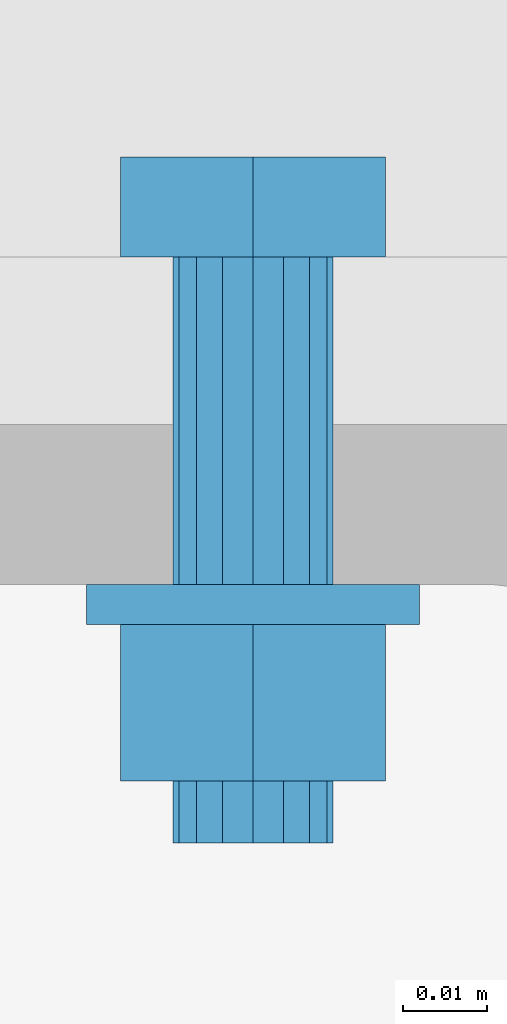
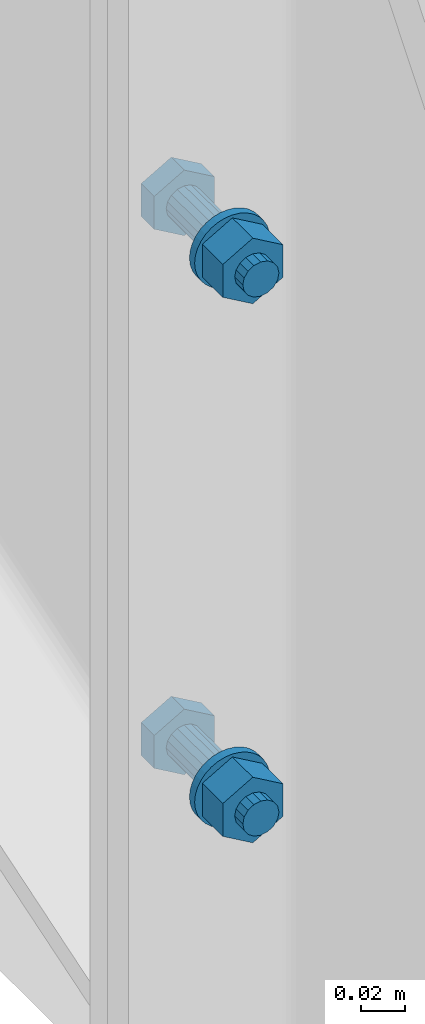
# Not in any storey, part 10 of 51: 2 mechanical fasteners.
"""IFC4 model written with IfcOpenShell, lengths in feet."""

from ifc_helpers import new_model, entity, si_unit, converted_unit, direction, origin, origin_with_axes, place, context, project, spatial, faceted_brep, element, save


model = new_model("IFC4")

# Units and contexts
model_context = context("Model", 3, precision=0.0001, world=origin(), true_north=direction((6.123233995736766e-17, 1.0)))
ifc_project = project(units=[converted_unit("LENGTHUNIT", "FOOT", entity("IfcLengthMeasure", 0.3048), si_unit("LENGTHUNIT", "METRE"), dimensions=[1, 0, 0, 0, 0, 0, 0]), converted_unit("AREAUNIT", "SQUARE INCH", entity("IfcAreaMeasure", 0.0006451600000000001), si_unit("AREAUNIT", "SQUARE_METRE"), dimensions=[2, 0, 0, 0, 0, 0, 0]), converted_unit("PLANEANGLEUNIT", "DEGREE", entity("IfcPlaneAngleMeasure", 0.017453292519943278), si_unit("PLANEANGLEUNIT", "RADIAN"), dimensions=[0, 0, 0, 0, 0, 0, 0]), si_unit("VOLUMEUNIT", "CUBIC_METRE")], contexts=[model_context])

# Site
site_placement = place(None, origin())
site = spatial("IfcSite", under=ifc_project, at=site_placement, Name="Default", CompositionType="ELEMENT")

# Mechanical fasteners
mechanical_fastener_1_placement = place(site_placement, origin_with_axes())
element("IfcMechanicalFastener", 1, at=mechanical_fastener_1_placement, inside=site, ObjectType="Bolt#5", NominalDiameter=0.0625, NominalLength=0.22916666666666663, context=model_context, shape_type="Brep", body=[
    faceted_brep([(11.05603211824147, 6.28730066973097, 17.178057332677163), (11.05603211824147, 6.326363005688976, 17.178057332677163), (11.1079034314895, 6.326363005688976, 17.148109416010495), (11.1079034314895, 6.28730066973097, 17.148109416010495), (11.159774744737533, 6.326363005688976, 17.178057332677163), (11.159774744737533, 6.28730066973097, 17.178057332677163), (11.159774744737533, 6.326363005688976, 17.2379531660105), (11.159774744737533, 6.28730066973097, 17.2379531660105), (11.1079034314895, 6.326363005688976, 17.267901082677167), (11.1079034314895, 6.28730066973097, 17.267901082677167), (11.05603211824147, 6.326363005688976, 17.2379531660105), (11.05603211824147, 6.28730066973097, 17.2379531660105)], [[[0, 1, 2, 3]], [[3, 2, 4, 5]], [[5, 4, 6, 7]], [[7, 6, 8, 9]], [[9, 8, 10, 11]], [[11, 10, 1, 0]], [[4, 2, 1, 10, 8, 6]], [[0, 3, 5, 7, 9, 11]]]),
    faceted_brep([(11.139153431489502, 6.28730066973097, 17.20800524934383), (11.139153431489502, 6.159183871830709, 17.20800524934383), (11.136774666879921, 6.159183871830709, 17.196046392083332), (11.136774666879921, 6.28730066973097, 17.196046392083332), (11.13000051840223, 6.159183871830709, 17.185908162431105), (11.13000051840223, 6.28730066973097, 17.185908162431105), (11.11986228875, 6.159183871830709, 17.17913401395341), (11.11986228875, 6.28730066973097, 17.17913401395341), (11.1079034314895, 6.159183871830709, 17.17675524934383), (11.1079034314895, 6.28730066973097, 17.17675524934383), (11.095944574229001, 6.159183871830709, 17.17913401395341), (11.095944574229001, 6.28730066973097, 17.17913401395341), (11.085806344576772, 6.159183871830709, 17.185908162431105), (11.085806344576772, 6.28730066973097, 17.185908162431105), (11.079032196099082, 6.159183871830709, 17.196046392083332), (11.079032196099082, 6.28730066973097, 17.196046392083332), (11.0766534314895, 6.159183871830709, 17.20800524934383), (11.0766534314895, 6.28730066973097, 17.20800524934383), (11.079032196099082, 6.159183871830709, 17.21996410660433), (11.079032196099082, 6.28730066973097, 17.21996410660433), (11.085806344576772, 6.159183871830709, 17.23010233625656), (11.085806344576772, 6.28730066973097, 17.23010233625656), (11.095944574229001, 6.159183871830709, 17.236876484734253), (11.095944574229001, 6.28730066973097, 17.236876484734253), (11.1079034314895, 6.159183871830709, 17.23925524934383), (11.1079034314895, 6.28730066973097, 17.23925524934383), (11.11986228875, 6.159183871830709, 17.236876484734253), (11.11986228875, 6.28730066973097, 17.236876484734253), (11.13000051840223, 6.159183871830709, 17.23010233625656), (11.13000051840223, 6.28730066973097, 17.23010233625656), (11.136774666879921, 6.159183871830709, 17.21996410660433), (11.136774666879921, 6.28730066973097, 17.21996410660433)], [[[0, 1, 2, 3]], [[3, 2, 4, 5]], [[5, 4, 6, 7]], [[7, 6, 8, 9]], [[9, 8, 10, 11]], [[11, 10, 12, 13]], [[13, 12, 14, 15]], [[15, 14, 16, 17]], [[17, 16, 18, 19]], [[19, 18, 20, 21]], [[21, 20, 22, 23]], [[23, 22, 24, 25]], [[25, 24, 26, 27]], [[27, 26, 28, 29]], [[29, 28, 30, 31]], [[31, 30, 1, 0]], [[0, 3, 5, 7, 9, 11, 13, 15, 17, 19, 21, 23, 25, 27, 29, 31]], [[1, 30, 28, 26, 24, 22, 20, 18, 16, 14, 12, 10, 8, 6, 4, 2]]]),
    faceted_brep([(11.173007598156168, 6.159183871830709, 17.20800524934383), (11.173007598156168, 6.143558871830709, 17.20800524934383), (11.17175663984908, 6.143558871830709, 17.195304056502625), (11.17175663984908, 6.159183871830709, 17.195304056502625), (11.168051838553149, 6.143558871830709, 17.183090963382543), (11.168051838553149, 6.159183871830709, 17.183090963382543), (11.162035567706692, 6.143558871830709, 17.171835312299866), (11.162035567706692, 6.159183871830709, 17.171835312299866), (11.15393902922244, 6.143558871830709, 17.161969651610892), (11.15393902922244, 6.159183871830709, 17.161969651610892), (11.144073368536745, 6.143558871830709, 17.15387311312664), (11.144073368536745, 6.159183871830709, 17.15387311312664), (11.132817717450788, 6.143558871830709, 17.147856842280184), (11.132817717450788, 6.159183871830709, 17.147856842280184), (11.120604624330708, 6.143558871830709, 17.144152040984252), (11.120604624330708, 6.159183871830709, 17.144152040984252), (11.1079034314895, 6.143558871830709, 17.142901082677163), (11.1079034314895, 6.159183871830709, 17.142901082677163), (11.095202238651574, 6.143558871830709, 17.144152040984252), (11.095202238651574, 6.159183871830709, 17.144152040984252), (11.082989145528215, 6.143558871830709, 17.147856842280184), (11.082989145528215, 6.159183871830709, 17.147856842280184), (11.071733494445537, 6.143558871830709, 17.15387311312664), (11.071733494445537, 6.159183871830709, 17.15387311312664), (11.061867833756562, 6.143558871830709, 17.161969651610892), (11.061867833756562, 6.159183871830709, 17.161969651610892), (11.053771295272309, 6.143558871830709, 17.171835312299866), (11.053771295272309, 6.159183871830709, 17.171835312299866), (11.047755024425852, 6.143558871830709, 17.183090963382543), (11.047755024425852, 6.159183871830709, 17.183090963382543), (11.044050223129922, 6.143558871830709, 17.195304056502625), (11.044050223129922, 6.159183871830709, 17.195304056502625), (11.042799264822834, 6.143558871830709, 17.20800524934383), (11.042799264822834, 6.159183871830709, 17.20800524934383), (11.044050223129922, 6.143558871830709, 17.220706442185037), (11.044050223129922, 6.159183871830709, 17.220706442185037), (11.047755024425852, 6.143558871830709, 17.23291953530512), (11.047755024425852, 6.159183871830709, 17.23291953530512), (11.053771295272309, 6.143558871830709, 17.244175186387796), (11.053771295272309, 6.159183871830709, 17.244175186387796), (11.061867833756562, 6.143558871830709, 17.254040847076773), (11.061867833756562, 6.159183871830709, 17.254040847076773), (11.071733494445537, 6.143558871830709, 17.262137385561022), (11.071733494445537, 6.159183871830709, 17.262137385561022), (11.082989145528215, 6.143558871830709, 17.268153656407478), (11.082989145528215, 6.159183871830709, 17.268153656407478), (11.095202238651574, 6.143558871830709, 17.271858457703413), (11.095202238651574, 6.159183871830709, 17.271858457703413), (11.1079034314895, 6.143558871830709, 17.2731094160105), (11.1079034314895, 6.159183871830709, 17.2731094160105), (11.120604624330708, 6.143558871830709, 17.271858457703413), (11.120604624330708, 6.159183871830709, 17.271858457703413), (11.132817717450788, 6.143558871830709, 17.268153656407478), (11.132817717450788, 6.159183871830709, 17.268153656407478), (11.144073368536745, 6.143558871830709, 17.262137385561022), (11.144073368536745, 6.159183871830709, 17.262137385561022), (11.15393902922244, 6.143558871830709, 17.254040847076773), (11.15393902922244, 6.159183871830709, 17.254040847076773), (11.162035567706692, 6.143558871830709, 17.244175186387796), (11.162035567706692, 6.159183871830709, 17.244175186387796), (11.168051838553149, 6.143558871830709, 17.23291953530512), (11.168051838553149, 6.159183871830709, 17.23291953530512), (11.17175663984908, 6.143558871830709, 17.220706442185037), (11.17175663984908, 6.159183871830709, 17.220706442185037)], [[[0, 1, 2, 3]], [[3, 2, 4, 5]], [[5, 4, 6, 7]], [[7, 6, 8, 9]], [[9, 8, 10, 11]], [[11, 10, 12, 13]], [[13, 12, 14, 15]], [[15, 14, 16, 17]], [[17, 16, 18, 19]], [[19, 18, 20, 21]], [[21, 20, 22, 23]], [[23, 22, 24, 25]], [[25, 24, 26, 27]], [[27, 26, 28, 29]], [[29, 28, 30, 31]], [[31, 30, 32, 33]], [[33, 32, 34, 35]], [[35, 34, 36, 37]], [[37, 36, 38, 39]], [[39, 38, 40, 41]], [[41, 40, 42, 43]], [[43, 42, 44, 45]], [[45, 44, 46, 47]], [[47, 46, 48, 49]], [[49, 48, 50, 51]], [[51, 50, 52, 53]], [[53, 52, 54, 55]], [[55, 54, 56, 57]], [[57, 56, 58, 59]], [[59, 58, 60, 61]], [[61, 60, 62, 63]], [[63, 62, 1, 0]], [[0, 3, 5, 7, 9, 11, 13, 15, 17, 19, 21, 23, 25, 27, 29, 31, 33, 35, 37, 39, 41, 43, 45, 47, 49, 51, 53, 55, 57, 59, 61, 63]], [[1, 62, 60, 58, 56, 54, 52, 50, 48, 46, 44, 42, 40, 38, 36, 34, 32, 30, 28, 26, 24, 22, 20, 18, 16, 14, 12, 10, 8, 6, 4, 2]]]),
    faceted_brep([(11.05603211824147, 6.082361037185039, 17.178057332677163), (11.05603211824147, 6.143558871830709, 17.178057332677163), (11.1079034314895, 6.143558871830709, 17.148109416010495), (11.1079034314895, 6.082361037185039, 17.148109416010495), (11.159774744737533, 6.143558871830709, 17.178057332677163), (11.159774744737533, 6.082361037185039, 17.178057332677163), (11.159774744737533, 6.143558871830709, 17.2379531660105), (11.159774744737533, 6.082361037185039, 17.2379531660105), (11.1079034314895, 6.143558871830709, 17.267901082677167), (11.1079034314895, 6.082361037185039, 17.267901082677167), (11.05603211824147, 6.143558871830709, 17.2379531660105), (11.05603211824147, 6.082361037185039, 17.2379531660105)], [[[0, 1, 2, 3]], [[3, 2, 4, 5]], [[5, 4, 6, 7]], [[7, 6, 8, 9]], [[9, 8, 10, 11]], [[11, 10, 1, 0]], [[4, 2, 1, 10, 8, 6]], [[0, 3, 5, 7, 9, 11]]]),
    faceted_brep([(11.139153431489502, 6.082361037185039, 17.20800524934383), (11.139153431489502, 6.058134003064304, 17.20800524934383), (11.136774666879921, 6.058134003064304, 17.196046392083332), (11.136774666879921, 6.082361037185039, 17.196046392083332), (11.13000051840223, 6.058134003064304, 17.185908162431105), (11.13000051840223, 6.082361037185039, 17.185908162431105), (11.11986228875, 6.058134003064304, 17.17913401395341), (11.11986228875, 6.082361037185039, 17.17913401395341), (11.1079034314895, 6.058134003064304, 17.17675524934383), (11.1079034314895, 6.082361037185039, 17.17675524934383), (11.095944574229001, 6.058134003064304, 17.17913401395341), (11.095944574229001, 6.082361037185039, 17.17913401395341), (11.085806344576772, 6.058134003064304, 17.185908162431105), (11.085806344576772, 6.082361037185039, 17.185908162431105), (11.079032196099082, 6.058134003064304, 17.196046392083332), (11.079032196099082, 6.082361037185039, 17.196046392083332), (11.0766534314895, 6.058134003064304, 17.20800524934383), (11.0766534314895, 6.082361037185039, 17.20800524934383), (11.079032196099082, 6.058134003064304, 17.21996410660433), (11.079032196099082, 6.082361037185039, 17.21996410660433), (11.085806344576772, 6.058134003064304, 17.23010233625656), (11.085806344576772, 6.082361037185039, 17.23010233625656), (11.095944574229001, 6.058134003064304, 17.236876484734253), (11.095944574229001, 6.082361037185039, 17.236876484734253), (11.1079034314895, 6.058134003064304, 17.23925524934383), (11.1079034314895, 6.082361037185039, 17.23925524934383), (11.11986228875, 6.058134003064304, 17.236876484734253), (11.11986228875, 6.082361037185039, 17.236876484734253), (11.13000051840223, 6.058134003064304, 17.23010233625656), (11.13000051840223, 6.082361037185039, 17.23010233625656), (11.136774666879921, 6.058134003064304, 17.21996410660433), (11.136774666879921, 6.082361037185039, 17.21996410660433)], [[[0, 1, 2, 3]], [[3, 2, 4, 5]], [[5, 4, 6, 7]], [[7, 6, 8, 9]], [[9, 8, 10, 11]], [[11, 10, 12, 13]], [[13, 12, 14, 15]], [[15, 14, 16, 17]], [[17, 16, 18, 19]], [[19, 18, 20, 21]], [[21, 20, 22, 23]], [[23, 22, 24, 25]], [[25, 24, 26, 27]], [[27, 26, 28, 29]], [[29, 28, 30, 31]], [[31, 30, 1, 0]], [[0, 3, 5, 7, 9, 11, 13, 15, 17, 19, 21, 23, 25, 27, 29, 31]], [[1, 30, 28, 26, 24, 22, 20, 18, 16, 14, 12, 10, 8, 6, 4, 2]]]),
])
mechanical_fastener_2_placement = place(site_placement, origin_with_axes())
element("IfcMechanicalFastener", 2, at=mechanical_fastener_2_placement, inside=site, ObjectType="Bolt#6", NominalDiameter=0.0625, NominalLength=0.22916666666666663, context=model_context, shape_type="Brep", body=[
    faceted_brep([(11.05603211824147, 6.28730066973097, 16.193805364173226), (11.05603211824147, 6.326363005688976, 16.193805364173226), (11.1079034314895, 6.326363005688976, 16.163857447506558), (11.1079034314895, 6.28730066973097, 16.163857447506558), (11.159774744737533, 6.326363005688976, 16.193805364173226), (11.159774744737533, 6.28730066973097, 16.193805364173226), (11.159774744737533, 6.326363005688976, 16.25370119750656), (11.159774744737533, 6.28730066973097, 16.25370119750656), (11.1079034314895, 6.326363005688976, 16.28364911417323), (11.1079034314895, 6.28730066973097, 16.28364911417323), (11.05603211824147, 6.326363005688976, 16.25370119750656), (11.05603211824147, 6.28730066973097, 16.25370119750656)], [[[0, 1, 2, 3]], [[3, 2, 4, 5]], [[5, 4, 6, 7]], [[7, 6, 8, 9]], [[9, 8, 10, 11]], [[11, 10, 1, 0]], [[4, 2, 1, 10, 8, 6]], [[0, 3, 5, 7, 9, 11]]]),
    faceted_brep([(11.139153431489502, 6.28730066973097, 16.223753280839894), (11.139153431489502, 6.159183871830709, 16.223753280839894), (11.136774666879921, 6.159183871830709, 16.211794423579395), (11.136774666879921, 6.28730066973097, 16.211794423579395), (11.13000051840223, 6.159183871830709, 16.201656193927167), (11.13000051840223, 6.28730066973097, 16.201656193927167), (11.11986228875, 6.159183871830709, 16.19488204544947), (11.11986228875, 6.28730066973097, 16.19488204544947), (11.1079034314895, 6.159183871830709, 16.192503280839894), (11.1079034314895, 6.28730066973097, 16.192503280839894), (11.095944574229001, 6.159183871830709, 16.19488204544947), (11.095944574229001, 6.28730066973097, 16.19488204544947), (11.085806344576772, 6.159183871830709, 16.201656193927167), (11.085806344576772, 6.28730066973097, 16.201656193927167), (11.079032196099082, 6.159183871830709, 16.211794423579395), (11.079032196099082, 6.28730066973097, 16.211794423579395), (11.0766534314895, 6.159183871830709, 16.223753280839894), (11.0766534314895, 6.28730066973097, 16.223753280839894), (11.079032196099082, 6.159183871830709, 16.235712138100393), (11.079032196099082, 6.28730066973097, 16.235712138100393), (11.085806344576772, 6.159183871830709, 16.245850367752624), (11.085806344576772, 6.28730066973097, 16.245850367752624), (11.095944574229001, 6.159183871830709, 16.252624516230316), (11.095944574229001, 6.28730066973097, 16.252624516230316), (11.1079034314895, 6.159183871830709, 16.255003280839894), (11.1079034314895, 6.28730066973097, 16.255003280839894), (11.11986228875, 6.159183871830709, 16.252624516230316), (11.11986228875, 6.28730066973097, 16.252624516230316), (11.13000051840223, 6.159183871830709, 16.245850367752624), (11.13000051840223, 6.28730066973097, 16.245850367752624), (11.136774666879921, 6.159183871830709, 16.235712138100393), (11.136774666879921, 6.28730066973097, 16.235712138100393)], [[[0, 1, 2, 3]], [[3, 2, 4, 5]], [[5, 4, 6, 7]], [[7, 6, 8, 9]], [[9, 8, 10, 11]], [[11, 10, 12, 13]], [[13, 12, 14, 15]], [[15, 14, 16, 17]], [[17, 16, 18, 19]], [[19, 18, 20, 21]], [[21, 20, 22, 23]], [[23, 22, 24, 25]], [[25, 24, 26, 27]], [[27, 26, 28, 29]], [[29, 28, 30, 31]], [[31, 30, 1, 0]], [[0, 3, 5, 7, 9, 11, 13, 15, 17, 19, 21, 23, 25, 27, 29, 31]], [[1, 30, 28, 26, 24, 22, 20, 18, 16, 14, 12, 10, 8, 6, 4, 2]]]),
    faceted_brep([(11.173007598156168, 6.159183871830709, 16.223753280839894), (11.173007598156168, 6.143558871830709, 16.223753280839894), (11.17175663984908, 6.143558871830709, 16.211052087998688), (11.17175663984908, 6.159183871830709, 16.211052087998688), (11.168051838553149, 6.143558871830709, 16.198838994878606), (11.168051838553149, 6.159183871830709, 16.198838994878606), (11.162035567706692, 6.143558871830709, 16.18758334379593), (11.162035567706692, 6.159183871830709, 16.18758334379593), (11.15393902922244, 6.143558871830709, 16.177717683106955), (11.15393902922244, 6.159183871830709, 16.177717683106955), (11.144073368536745, 6.143558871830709, 16.169621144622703), (11.144073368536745, 6.159183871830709, 16.169621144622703), (11.132817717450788, 6.143558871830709, 16.163604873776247), (11.132817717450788, 6.159183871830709, 16.163604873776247), (11.120604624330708, 6.143558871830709, 16.159900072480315), (11.120604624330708, 6.159183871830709, 16.159900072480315), (11.1079034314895, 6.143558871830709, 16.158649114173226), (11.1079034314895, 6.159183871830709, 16.158649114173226), (11.095202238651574, 6.143558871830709, 16.159900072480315), (11.095202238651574, 6.159183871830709, 16.159900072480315), (11.082989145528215, 6.143558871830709, 16.163604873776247), (11.082989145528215, 6.159183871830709, 16.163604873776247), (11.071733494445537, 6.143558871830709, 16.169621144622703), (11.071733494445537, 6.159183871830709, 16.169621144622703), (11.061867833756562, 6.143558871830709, 16.177717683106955), (11.061867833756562, 6.159183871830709, 16.177717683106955), (11.053771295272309, 6.143558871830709, 16.18758334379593), (11.053771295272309, 6.159183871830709, 16.18758334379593), (11.047755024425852, 6.143558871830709, 16.198838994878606), (11.047755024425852, 6.159183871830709, 16.198838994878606), (11.044050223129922, 6.143558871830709, 16.211052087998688), (11.044050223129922, 6.159183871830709, 16.211052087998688), (11.042799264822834, 6.143558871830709, 16.223753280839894), (11.042799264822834, 6.159183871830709, 16.223753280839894), (11.044050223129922, 6.143558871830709, 16.2364544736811), (11.044050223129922, 6.159183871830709, 16.2364544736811), (11.047755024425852, 6.143558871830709, 16.24866756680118), (11.047755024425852, 6.159183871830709, 16.24866756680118), (11.053771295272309, 6.143558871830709, 16.25992321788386), (11.053771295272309, 6.159183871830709, 16.25992321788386), (11.061867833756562, 6.143558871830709, 16.269788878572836), (11.061867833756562, 6.159183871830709, 16.269788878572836), (11.071733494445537, 6.143558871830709, 16.277885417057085), (11.071733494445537, 6.159183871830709, 16.277885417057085), (11.082989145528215, 6.143558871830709, 16.28390168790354), (11.082989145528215, 6.159183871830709, 16.28390168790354), (11.095202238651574, 6.143558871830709, 16.287606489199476), (11.095202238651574, 6.159183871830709, 16.287606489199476), (11.1079034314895, 6.143558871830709, 16.28885744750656), (11.1079034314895, 6.159183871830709, 16.28885744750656), (11.120604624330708, 6.143558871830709, 16.287606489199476), (11.120604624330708, 6.159183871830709, 16.287606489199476), (11.132817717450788, 6.143558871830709, 16.28390168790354), (11.132817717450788, 6.159183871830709, 16.28390168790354), (11.144073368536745, 6.143558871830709, 16.277885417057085), (11.144073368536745, 6.159183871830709, 16.277885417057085), (11.15393902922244, 6.143558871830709, 16.269788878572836), (11.15393902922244, 6.159183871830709, 16.269788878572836), (11.162035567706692, 6.143558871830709, 16.25992321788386), (11.162035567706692, 6.159183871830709, 16.25992321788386), (11.168051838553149, 6.143558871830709, 16.24866756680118), (11.168051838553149, 6.159183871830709, 16.24866756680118), (11.17175663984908, 6.143558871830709, 16.2364544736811), (11.17175663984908, 6.159183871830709, 16.2364544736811)], [[[0, 1, 2, 3]], [[3, 2, 4, 5]], [[5, 4, 6, 7]], [[7, 6, 8, 9]], [[9, 8, 10, 11]], [[11, 10, 12, 13]], [[13, 12, 14, 15]], [[15, 14, 16, 17]], [[17, 16, 18, 19]], [[19, 18, 20, 21]], [[21, 20, 22, 23]], [[23, 22, 24, 25]], [[25, 24, 26, 27]], [[27, 26, 28, 29]], [[29, 28, 30, 31]], [[31, 30, 32, 33]], [[33, 32, 34, 35]], [[35, 34, 36, 37]], [[37, 36, 38, 39]], [[39, 38, 40, 41]], [[41, 40, 42, 43]], [[43, 42, 44, 45]], [[45, 44, 46, 47]], [[47, 46, 48, 49]], [[49, 48, 50, 51]], [[51, 50, 52, 53]], [[53, 52, 54, 55]], [[55, 54, 56, 57]], [[57, 56, 58, 59]], [[59, 58, 60, 61]], [[61, 60, 62, 63]], [[63, 62, 1, 0]], [[0, 3, 5, 7, 9, 11, 13, 15, 17, 19, 21, 23, 25, 27, 29, 31, 33, 35, 37, 39, 41, 43, 45, 47, 49, 51, 53, 55, 57, 59, 61, 63]], [[1, 62, 60, 58, 56, 54, 52, 50, 48, 46, 44, 42, 40, 38, 36, 34, 32, 30, 28, 26, 24, 22, 20, 18, 16, 14, 12, 10, 8, 6, 4, 2]]]),
    faceted_brep([(11.05603211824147, 6.082361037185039, 16.193805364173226), (11.05603211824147, 6.143558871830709, 16.193805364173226), (11.1079034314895, 6.143558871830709, 16.163857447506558), (11.1079034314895, 6.082361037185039, 16.163857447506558), (11.159774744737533, 6.143558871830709, 16.193805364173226), (11.159774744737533, 6.082361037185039, 16.193805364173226), (11.159774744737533, 6.143558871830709, 16.25370119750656), (11.159774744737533, 6.082361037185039, 16.25370119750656), (11.1079034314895, 6.143558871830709, 16.28364911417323), (11.1079034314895, 6.082361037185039, 16.28364911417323), (11.05603211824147, 6.143558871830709, 16.25370119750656), (11.05603211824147, 6.082361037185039, 16.25370119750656)], [[[0, 1, 2, 3]], [[3, 2, 4, 5]], [[5, 4, 6, 7]], [[7, 6, 8, 9]], [[9, 8, 10, 11]], [[11, 10, 1, 0]], [[4, 2, 1, 10, 8, 6]], [[0, 3, 5, 7, 9, 11]]]),
    faceted_brep([(11.139153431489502, 6.082361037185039, 16.223753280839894), (11.139153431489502, 6.058134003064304, 16.223753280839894), (11.136774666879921, 6.058134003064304, 16.211794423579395), (11.136774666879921, 6.082361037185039, 16.211794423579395), (11.13000051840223, 6.058134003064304, 16.201656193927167), (11.13000051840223, 6.082361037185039, 16.201656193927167), (11.11986228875, 6.058134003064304, 16.19488204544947), (11.11986228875, 6.082361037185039, 16.19488204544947), (11.1079034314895, 6.058134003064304, 16.192503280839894), (11.1079034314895, 6.082361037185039, 16.192503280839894), (11.095944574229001, 6.058134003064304, 16.19488204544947), (11.095944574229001, 6.082361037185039, 16.19488204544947), (11.085806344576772, 6.058134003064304, 16.201656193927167), (11.085806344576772, 6.082361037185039, 16.201656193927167), (11.079032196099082, 6.058134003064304, 16.211794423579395), (11.079032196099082, 6.082361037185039, 16.211794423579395), (11.0766534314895, 6.058134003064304, 16.223753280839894), (11.0766534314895, 6.082361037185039, 16.223753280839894), (11.079032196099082, 6.058134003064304, 16.235712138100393), (11.079032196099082, 6.082361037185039, 16.235712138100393), (11.085806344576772, 6.058134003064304, 16.245850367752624), (11.085806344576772, 6.082361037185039, 16.245850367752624), (11.095944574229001, 6.058134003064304, 16.252624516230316), (11.095944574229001, 6.082361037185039, 16.252624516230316), (11.1079034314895, 6.058134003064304, 16.255003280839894), (11.1079034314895, 6.082361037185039, 16.255003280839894), (11.11986228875, 6.058134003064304, 16.252624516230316), (11.11986228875, 6.082361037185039, 16.252624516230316), (11.13000051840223, 6.058134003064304, 16.245850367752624), (11.13000051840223, 6.082361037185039, 16.245850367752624), (11.136774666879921, 6.058134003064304, 16.235712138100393), (11.136774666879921, 6.082361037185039, 16.235712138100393)], [[[0, 1, 2, 3]], [[3, 2, 4, 5]], [[5, 4, 6, 7]], [[7, 6, 8, 9]], [[9, 8, 10, 11]], [[11, 10, 12, 13]], [[13, 12, 14, 15]], [[15, 14, 16, 17]], [[17, 16, 18, 19]], [[19, 18, 20, 21]], [[21, 20, 22, 23]], [[23, 22, 24, 25]], [[25, 24, 26, 27]], [[27, 26, 28, 29]], [[29, 28, 30, 31]], [[31, 30, 1, 0]], [[0, 3, 5, 7, 9, 11, 13, 15, 17, 19, 21, 23, 25, 27, 29, 31]], [[1, 30, 28, 26, 24, 22, 20, 18, 16, 14, 12, 10, 8, 6, 4, 2]]]),
])

save(model, "model.ifc")
